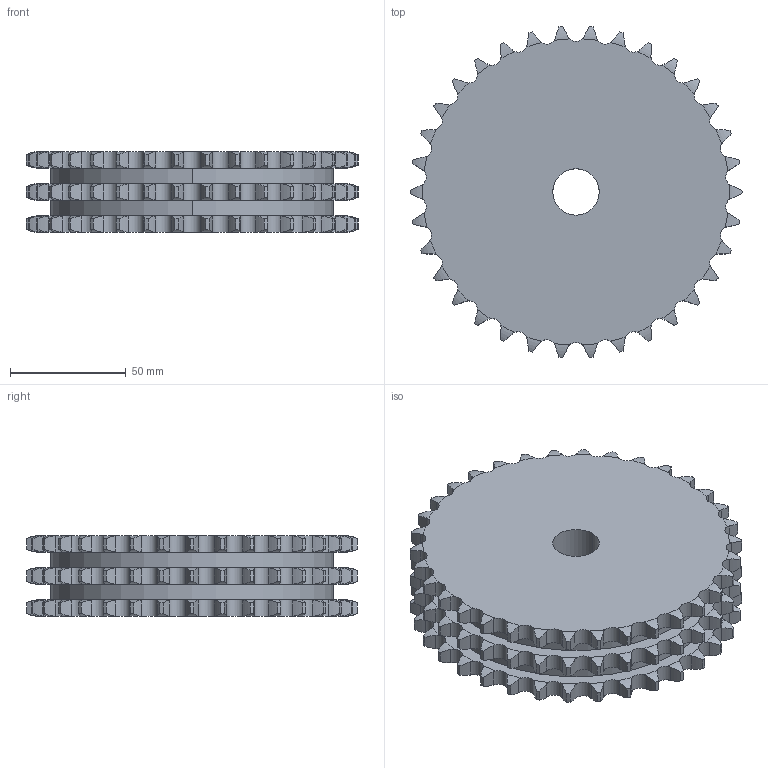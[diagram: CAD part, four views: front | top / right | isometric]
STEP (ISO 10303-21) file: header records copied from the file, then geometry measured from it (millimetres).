
FILE_DESCRIPTION((''),'2;1');
FILE_NAME('500-203-0034_PRT','2021-02-12T',('Brieden'),('Brieden'),'PRO/ENGINEER BY PARAMETRIC TECHNOLOGY CORPORATION, 2010160','PRO/ENGINEER BY PARAMETRIC TECHNOLOGY CORPORATION, 2010160','');
FILE_SCHEMA(('AUTOMOTIVE_DESIGN { 1 0 10303 214 1 1 1 1 }'));
Length unit declared in the file: millimetre
Products named in the file (1): 500-203-0034_PRT
Bounding box: 143.19 x 142.71 x 34.9 mm (x, y, z)
Volume: 451703.4 mm3; surface area: 59432.2 mm2
Topology: 1 solids, 1 shells, 624 faces, 1854 edges, 1236 vertices
Faces by surface type: cylinder 414, torus 204, plane 6
Entity records: 30305 total; most frequent: CARTESIAN_POINT 8936, ORIENTED_EDGE 3708, DIRECTION 2910, PRESENTATION_STYLE_ASSIGNMENT 1855, STYLED_ITEM 1855, CURVE_STYLE 1854, EDGE_CURVE 1854, AXIS2_PLACEMENT_3D 1248
